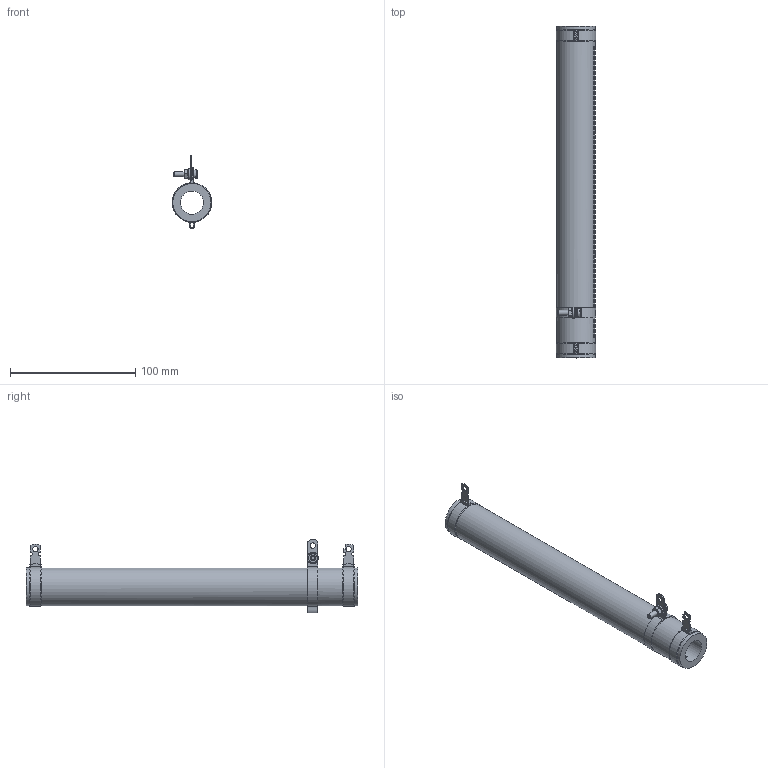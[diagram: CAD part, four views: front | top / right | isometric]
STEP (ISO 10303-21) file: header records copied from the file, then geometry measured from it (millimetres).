
FILE_DESCRIPTION(/* description */ (''),/* implementation_level */ '2;1');
FILE_NAME(/* name */ 'C:\_Vault\Dati\CATALOGO\RCA-RSA\R 25-1000\3D\RCAR 250.stp',/* time_stamp */ '2014-03-18T17:25:17+01:00',/* author */ ('stefano'),/* organization */ (''),/* preprocessor_version */ 'ST-DEVELOPER v15.2',/* originating_system */ 'Autodesk Inventor 2014',/* authorisation */ '');
FILE_SCHEMA (('AUTOMOTIVE_DESIGN { 1 0 10303 214 3 1 1 }'));
Length unit declared in the file: millimetre
Products named in the file (1): RCAR 250
Bounding box: 31.57 x 265 x 58.36 mm (x, y, z)
Volume: 124240.8 mm3; surface area: 44578.3 mm2
Topology: 1 solids, 2 shells, 715 faces, 1723 edges, 1134 vertices
Faces by surface type: plane 517, cylinder 163, cone 17, torus 14, bspline 4
Full cylindrical faces by diameter (mm): 3.571 x1, 4 x2, 4.2 x5, 4.3 x1, 9 x1, 18.5 x1, 30.5 x3
Entity records: 21773 total; most frequent: CARTESIAN_POINT 3938, DIRECTION 3662, ORIENTED_EDGE 3384, EDGE_CURVE 1692, AXIS2_PLACEMENT_3D 1311, VERTEX_POINT 1123, LINE 1040, VECTOR 1040
